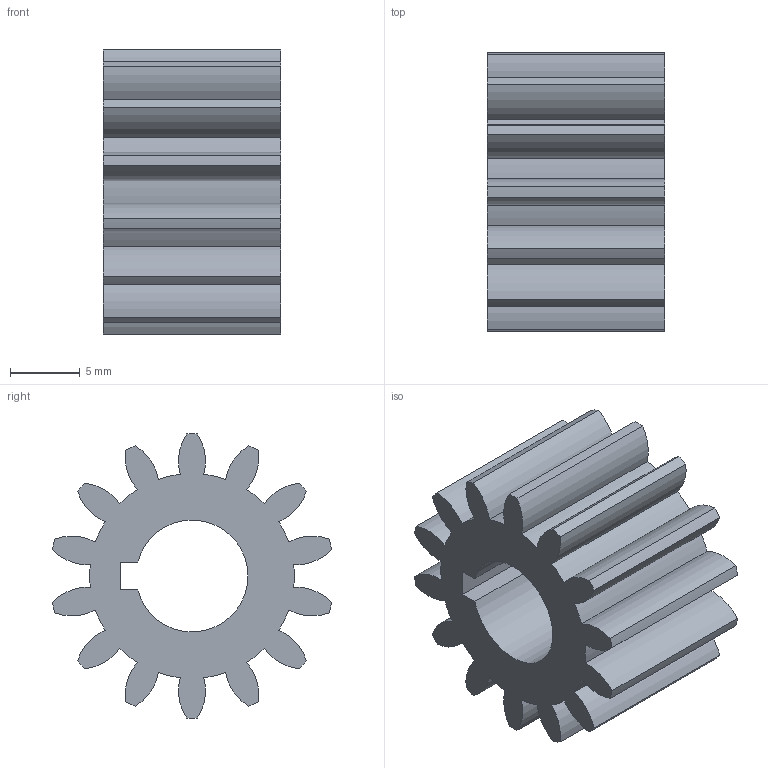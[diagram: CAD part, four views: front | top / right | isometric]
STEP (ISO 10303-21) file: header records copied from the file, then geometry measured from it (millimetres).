
FILE_DESCRIPTION(/* description */ (''),/* implementation_level */ '2;1');
FILE_NAME(/* name */ 'CIM gear 14 tooth .step',/* time_stamp */ '2022-12-29T16:24:16-08:00',/* author */ (''),/* organization */ (''),/* preprocessor_version */ 'ST-DEVELOPER v19.2',/* originating_system */ 'Autodesk Translation Framework v11.17.0.187',/* authorisation */ '');
FILE_SCHEMA (('AUTOMOTIVE_DESIGN { 1 0 10303 214 3 1 1 }'));
Length unit declared in the file: inch
Products named in the file (1): CIM gear 14 tooth
Bounding box: 12.7 x 19.97 x 20.32 mm (x, y, z)
Volume: 2304.8 mm3; surface area: 2205.6 mm2
Topology: 1 solids, 1 shells, 62 faces, 180 edges, 120 vertices
Faces by surface type: cylinder 57, plane 5
Entity records: 2164 total; most frequent: DIRECTION 420, CARTESIAN_POINT 363, ORIENTED_EDGE 360, EDGE_CURVE 180, AXIS2_PLACEMENT_3D 177, VERTEX_POINT 120, CIRCLE 114, LINE 66
